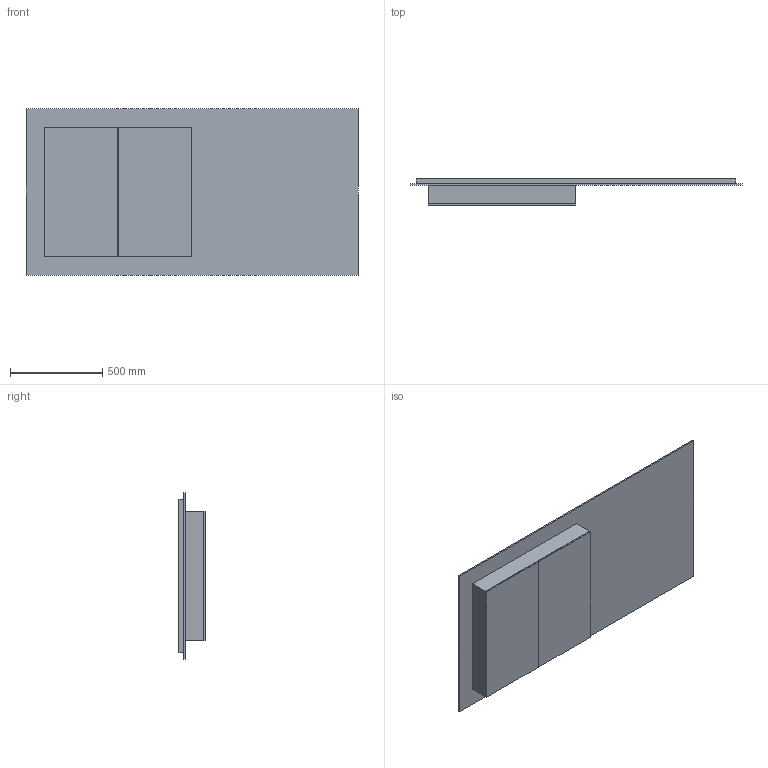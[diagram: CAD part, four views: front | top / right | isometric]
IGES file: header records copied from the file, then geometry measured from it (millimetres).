
Global section: file name: \\Archi-NAS\Comune\X GIOVANNI\SPECCHI\MIRR IN MIRROR DOUBLE.igs; native system: Rhinoceros ( Feb 23 2021 ); preprocessor: Trout Lake IGES 012 Feb 23 2021; date: 230608.082802; units: millimetre
Bounding box: 1800 x 143 x 900 mm (x, y, z)
Surface area: 9469016 mm2 (no closed solid volume)
Topology: 0 solids, 0 shells, 58 faces, 240 edges, 240 vertices
Faces by surface type: bspline 58
